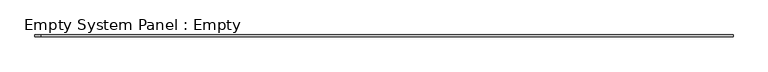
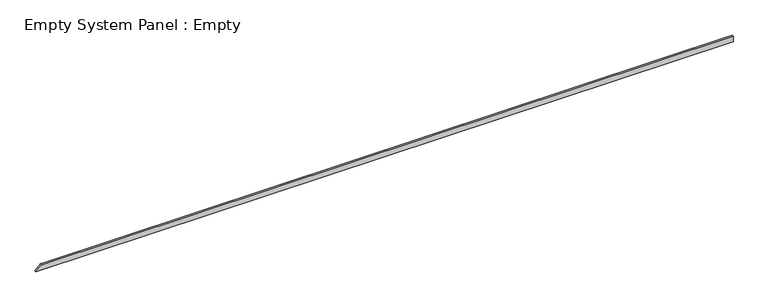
"""IFC4 building model written with IfcOpenShell, lengths in millimetres: plate geometry, Empty System Panel : Empty."""

from ifc_helpers import new_model, si_unit, frame, origin, place, context, project, spatial, polyline, outline, extrude, source, transform, mapped, element, save


def empty_system_panel_empty_f90244ea(model_context):
    return source(origin(), model_context, "Body", "SweptSolid", [
        extrude(outline(polyline([(0.0, -19274.5826554), (0.0, 19274.5826554), (310.0, 19274.5826554), (310.0, -18948.233659), (330.0, -18948.233659), (0.0, -19274.5826554)])), frame((0.0, -50.0, 0.0), z_axis=(0.0, 1.0, 0.0), x_axis=(0.0, 0.0, 1.0)), (0.0, 0.0, 1.0), 100.0),
    ])


if __name__ == "__main__":
    model = new_model("IFC4")
    model_context = context("Model", 3, world=origin())
    ifc_project = project(units=[si_unit("LENGTHUNIT", "METRE", prefix="MILLI")], contexts=[model_context])
    site = spatial("IfcSite", under=ifc_project)
    building = spatial("IfcBuilding", under=site)
    placement = place(None, origin())
    empty_system_panel_empty_shape = empty_system_panel_empty_f90244ea(model_context)
    element("IfcPlate", 1, ObjectType="Empty System Panel : Empty", at=placement, inside=building, context=model_context, shape_type="MappedRepresentation", body=[
        mapped(empty_system_panel_empty_shape, transform((0.0, 0.0, 0.0), x_axis=(1.0, 0.0, 0.0), y_axis=(0.0, 1.0, 0.0), z_axis=(0.0, 0.0, 1.0))),
    ])
    save(model, "model.ifc")
